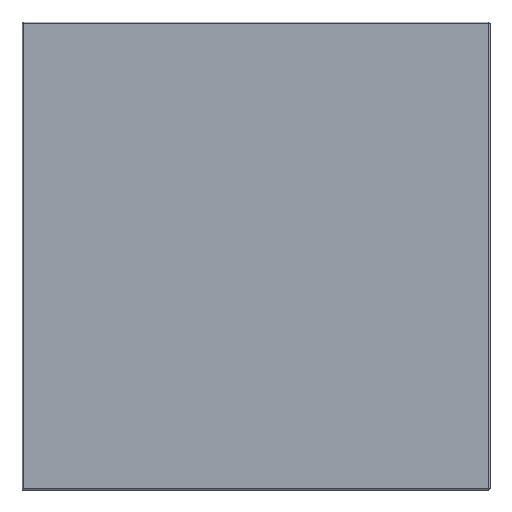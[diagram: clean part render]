
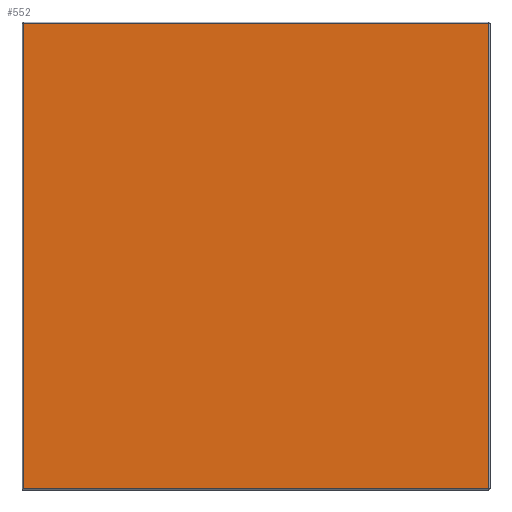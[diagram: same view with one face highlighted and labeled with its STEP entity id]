
A CAD part, front view. The second image highlights one B-rep face of the part: STEP entity #552.
In plain terms, the highlighted planar face has unit normal (0, 1, 0).
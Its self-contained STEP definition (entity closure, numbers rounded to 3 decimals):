
#41=PLANE('',#633);
#61=LINE('',#12597,#90);
#76=LINE('',#12645,#105);
#78=LINE('',#12648,#107);
#80=LINE('',#12651,#109);
#90=VECTOR('',#702,10.);
#105=VECTOR('',#761,10.);
#107=VECTOR('',#765,10.);
#109=VECTOR('',#769,10.);
#158=FACE_OUTER_BOUND('',#198,.T.);
#198=EDGE_LOOP('',(#480,#481,#482,#483));
#258=VERTEX_POINT('',#12576);
#261=VERTEX_POINT('',#12583);
#262=VERTEX_POINT('',#12587);
#266=VERTEX_POINT('',#12596);
#323=EDGE_CURVE('',#262,#266,#61,.T.);
#349=EDGE_CURVE('',#258,#262,#76,.T.);
#351=EDGE_CURVE('',#266,#261,#78,.T.);
#353=EDGE_CURVE('',#261,#258,#80,.T.);
#480=ORIENTED_EDGE('',*,*,#323,.F.);
#481=ORIENTED_EDGE('',*,*,#349,.F.);
#482=ORIENTED_EDGE('',*,*,#353,.F.);
#483=ORIENTED_EDGE('',*,*,#351,.F.);
#552=ADVANCED_FACE('',(#158),#41,.T.);
#633=AXIS2_PLACEMENT_3D('',#12655,#774,#775);
#702=DIRECTION('',(0.,0.,-1.));
#761=DIRECTION('',(-1.,0.,0.));
#765=DIRECTION('',(1.,0.,0.));
#769=DIRECTION('',(0.,0.,1.));
#774=DIRECTION('center_axis',(0.,1.,0.));
#775=DIRECTION('ref_axis',(0.,0.,1.));
#12576=CARTESIAN_POINT('',(898.,0.,-2.));
#12583=CARTESIAN_POINT('',(898.,0.,-898.));
#12587=CARTESIAN_POINT('',(2.,0.,-2.));
#12596=CARTESIAN_POINT('',(2.,0.,-898.));
#12597=CARTESIAN_POINT('',(2.,0.,-675.));
#12645=CARTESIAN_POINT('',(225.,0.,-2.));
#12648=CARTESIAN_POINT('',(675.,0.,-898.));
#12651=CARTESIAN_POINT('',(898.,0.,-225.));
#12655=CARTESIAN_POINT('Origin',(450.,0.,-450.));
